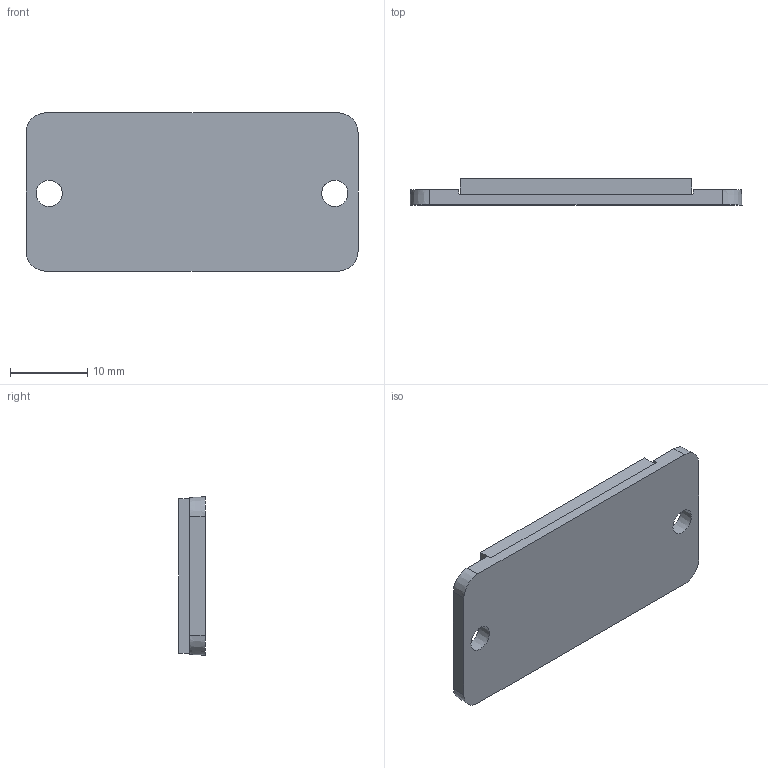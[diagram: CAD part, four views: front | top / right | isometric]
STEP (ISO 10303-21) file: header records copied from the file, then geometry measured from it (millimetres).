
FILE_DESCRIPTION(/* description */ (''),/* implementation_level */ '2;1');
FILE_NAME(/* name */ '3DCAD_MTKS20x30_1.stp',/* time_stamp */ '2017-09-20T09:47:10+02:00',/* author */ ('CC2'),/* organization */ ('Leuze electronic'),/* preprocessor_version */ 'ST-DEVELOPER v15',/* originating_system */ 'SIEMENS PLM Software NX 8.5',/* authorisation */ '');
FILE_SCHEMA (('AUTOMOTIVE_DESIGN { 1 0 10303 214 3 1 1 1 }'));
Length unit declared in the file: millimetre
Products named in the file (1): 19-102698_00.0
Bounding box: 43 x 3.4 x 20.5 mm (x, y, z)
Volume: 2214 mm3; surface area: 3306.8 mm2
Topology: 1 solids, 2 shells, 31 faces, 78 edges, 52 vertices
Faces by surface type: plane 21, cone 6, cylinder 4
Entity records: 944 total; most frequent: CARTESIAN_POINT 184, ORIENTED_EDGE 152, DIRECTION 144, EDGE_CURVE 76, LINE 56, VECTOR 56, VERTEX_POINT 52, AXIS2_PLACEMENT_3D 44
